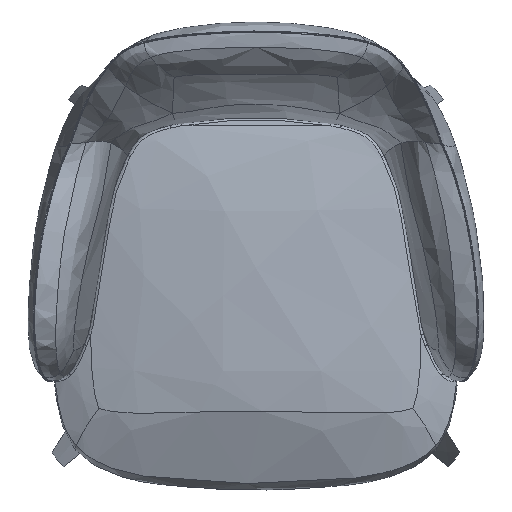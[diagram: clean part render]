
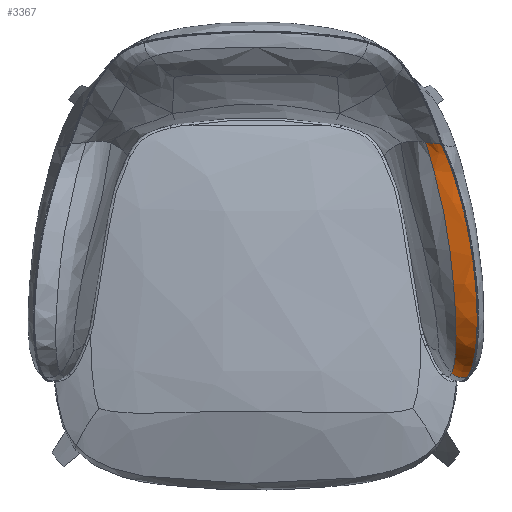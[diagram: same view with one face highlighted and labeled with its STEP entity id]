
A CAD part, top view. The second image highlights one B-rep face of the part: STEP entity #3367.
In plain terms, the highlighted free-form (B-spline) face has degree [3, 3] with [10, 6] control points.
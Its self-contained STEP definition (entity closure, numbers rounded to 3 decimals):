
#167=B_SPLINE_SURFACE_WITH_KNOTS('',3,3,((#9984,#9985,#9986,#9987,#9988,
#9989),(#9990,#9991,#9992,#9993,#9994,#9995),(#9996,#9997,#9998,#9999,#10000,
#10001),(#10002,#10003,#10004,#10005,#10006,#10007),(#10008,#10009,#10010,
#10011,#10012,#10013),(#10014,#10015,#10016,#10017,#10018,#10019),(#10020,
#10021,#10022,#10023,#10024,#10025),(#10026,#10027,#10028,#10029,#10030,
#10031),(#10032,#10033,#10034,#10035,#10036,#10037),(#10038,#10039,#10040,
#10041,#10042,#10043)),.UNSPECIFIED.,.F.,.F.,.F.,(4,1,1,1,1,1,1,4),(4,1,
1,4),(0.,0.063,0.125,0.25,0.5,1.,1.5,2.),(0.,0.5,0.75,1.),
 .UNSPECIFIED.);
#370=FACE_OUTER_BOUND('',#581,.T.);
#581=EDGE_LOOP('',(#2592,#2593,#2594,#2595));
#982=B_SPLINE_CURVE_WITH_KNOTS('',3,(#8619,#8620,#8621,#8622,#8623,#8624,
#8625,#8626,#8627,#8628,#8629),.UNSPECIFIED.,.F.,.F.,(4,1,1,1,2,2,4),(-1.,
-0.875,-0.75,-0.5,-0.25,-0.125,0.),.UNSPECIFIED.);
#991=B_SPLINE_CURVE_WITH_KNOTS('',3,(#9153,#9154,#9155,#9156,#9157,#9158,
#9159,#9160,#9161,#9162),.UNSPECIFIED.,.F.,.F.,(4,1,1,1,1,1,1,4),(-2.,-1.5,
-1.,-0.5,-0.25,-0.125,-0.063,0.),.UNSPECIFIED.);
#1008=B_SPLINE_CURVE_WITH_KNOTS('',3,(#10045,#10046,#10047,#10048,#10049,
#10050,#10051,#10052,#10053,#10054,#10055,#10056),.UNSPECIFIED.,.F.,.F.,
(4,2,2,1,1,1,1,4),(-2.,-1.75,-1.5,-1.,-0.5,-0.25,-0.125,0.),
 .UNSPECIFIED.);
#1009=B_SPLINE_CURVE_WITH_KNOTS('',3,(#10057,#10058,#10059,#10060,#10061,
#10062),.UNSPECIFIED.,.F.,.F.,(4,1,1,4),(0.,0.5,0.75,1.),.UNSPECIFIED.);
#1385=VERTEX_POINT('',#8606);
#1386=VERTEX_POINT('',#8618);
#1392=VERTEX_POINT('',#9152);
#1404=VERTEX_POINT('',#10044);
#1801=EDGE_CURVE('',#1385,#1386,#982,.T.);
#1810=EDGE_CURVE('',#1385,#1392,#991,.T.);
#1827=EDGE_CURVE('',#1386,#1404,#1008,.T.);
#1828=EDGE_CURVE('',#1404,#1392,#1009,.T.);
#2592=ORIENTED_EDGE('',*,*,#1827,.F.);
#2593=ORIENTED_EDGE('',*,*,#1801,.F.);
#2594=ORIENTED_EDGE('',*,*,#1810,.T.);
#2595=ORIENTED_EDGE('',*,*,#1828,.F.);
#3367=ADVANCED_FACE('',(#370),#167,.T.);
#8606=CARTESIAN_POINT('',(278.075,142.523,203.205));
#8618=CARTESIAN_POINT('',(256.688,148.232,202.003));
#8619=CARTESIAN_POINT('Ctrl Pts',(278.075,142.523,203.205));
#8620=CARTESIAN_POINT('Ctrl Pts',(277.174,142.461,203.156));
#8621=CARTESIAN_POINT('Ctrl Pts',(275.373,142.338,203.058));
#8622=CARTESIAN_POINT('Ctrl Pts',(271.775,142.204,202.861));
#8623=CARTESIAN_POINT('Ctrl Pts',(267.29,142.457,202.614));
#8624=CARTESIAN_POINT('Ctrl Pts',(263.73,143.558,202.413));
#8625=CARTESIAN_POINT('Ctrl Pts',(261.076,144.89,202.261));
#8626=CARTESIAN_POINT('Ctrl Pts',(260.194,145.418,202.21));
#8627=CARTESIAN_POINT('Ctrl Pts',(258.436,146.671,202.107));
#8628=CARTESIAN_POINT('Ctrl Pts',(257.56,147.395,202.055));
#8629=CARTESIAN_POINT('Ctrl Pts',(256.688,148.232,202.003));
#9152=CARTESIAN_POINT('',(243.927,448.423,290.504));
#9153=CARTESIAN_POINT('Ctrl Pts',(278.075,142.523,203.205));
#9154=CARTESIAN_POINT('Ctrl Pts',(283.283,148.996,236.562));
#9155=CARTESIAN_POINT('Ctrl Pts',(291.636,177.629,283.331));
#9156=CARTESIAN_POINT('Ctrl Pts',(291.876,260.107,308.684));
#9157=CARTESIAN_POINT('Ctrl Pts',(276.749,355.5,305.012));
#9158=CARTESIAN_POINT('Ctrl Pts',(257.606,416.579,287.564));
#9159=CARTESIAN_POINT('Ctrl Pts',(250.425,434.328,287.76));
#9160=CARTESIAN_POINT('Ctrl Pts',(246.663,442.643,289.146));
#9161=CARTESIAN_POINT('Ctrl Pts',(244.839,446.497,290.051));
#9162=CARTESIAN_POINT('Ctrl Pts',(243.927,448.423,290.504));
#9984=CARTESIAN_POINT('Ctrl Pts',(222.61,450.703,282.114));
#9985=CARTESIAN_POINT('Ctrl Pts',(227.235,450.093,285.062));
#9986=CARTESIAN_POINT('Ctrl Pts',(232.966,449.438,287.74));
#9987=CARTESIAN_POINT('Ctrl Pts',(239.402,448.821,289.568));
#9988=CARTESIAN_POINT('Ctrl Pts',(242.419,448.556,290.192));
#9989=CARTESIAN_POINT('Ctrl Pts',(243.927,448.423,290.504));
#9990=CARTESIAN_POINT('Ctrl Pts',(223.415,448.011,281.817));
#9991=CARTESIAN_POINT('Ctrl Pts',(228.115,447.7,284.683));
#9992=CARTESIAN_POINT('Ctrl Pts',(233.895,447.299,287.302));
#9993=CARTESIAN_POINT('Ctrl Pts',(240.33,446.831,289.113));
#9994=CARTESIAN_POINT('Ctrl Pts',(243.336,446.608,289.738));
#9995=CARTESIAN_POINT('Ctrl Pts',(244.839,446.497,290.051));
#9996=CARTESIAN_POINT('Ctrl Pts',(225.024,442.629,281.223));
#9997=CARTESIAN_POINT('Ctrl Pts',(229.876,442.913,283.927));
#9998=CARTESIAN_POINT('Ctrl Pts',(235.752,443.022,286.426));
#9999=CARTESIAN_POINT('Ctrl Pts',(242.187,442.851,288.202));
#10000=CARTESIAN_POINT('Ctrl Pts',(245.171,442.712,288.831));
#10001=CARTESIAN_POINT('Ctrl Pts',(246.663,442.643,289.146));
#10002=CARTESIAN_POINT('Ctrl Pts',(228.328,431.429,280.401));
#10003=CARTESIAN_POINT('Ctrl Pts',(233.457,432.837,282.805));
#10004=CARTESIAN_POINT('Ctrl Pts',(239.523,433.909,285.086));
#10005=CARTESIAN_POINT('Ctrl Pts',(245.985,434.297,286.803));
#10006=CARTESIAN_POINT('Ctrl Pts',(248.945,434.318,287.441));
#10007=CARTESIAN_POINT('Ctrl Pts',(250.425,434.328,287.76));
#10008=CARTESIAN_POINT('Ctrl Pts',(234.554,409.535,280.879));
#10009=CARTESIAN_POINT('Ctrl Pts',(240.039,412.57,282.898));
#10010=CARTESIAN_POINT('Ctrl Pts',(246.418,415.028,284.909));
#10011=CARTESIAN_POINT('Ctrl Pts',(253.075,416.213,286.572));
#10012=CARTESIAN_POINT('Ctrl Pts',(256.095,416.457,287.233));
#10013=CARTESIAN_POINT('Ctrl Pts',(257.606,416.579,287.564));
#10014=CARTESIAN_POINT('Ctrl Pts',(250.561,347.406,297.168));
#10015=CARTESIAN_POINT('Ctrl Pts',(255.719,350.956,299.534));
#10016=CARTESIAN_POINT('Ctrl Pts',(262.563,353.805,301.891));
#10017=CARTESIAN_POINT('Ctrl Pts',(270.797,355.128,303.844));
#10018=CARTESIAN_POINT('Ctrl Pts',(274.765,355.376,304.623));
#10019=CARTESIAN_POINT('Ctrl Pts',(276.749,355.5,305.012));
#10020=CARTESIAN_POINT('Ctrl Pts',(260.842,256.553,298.349));
#10021=CARTESIAN_POINT('Ctrl Pts',(265.805,257.818,301.96));
#10022=CARTESIAN_POINT('Ctrl Pts',(273.485,258.959,305.253));
#10023=CARTESIAN_POINT('Ctrl Pts',(283.961,259.723,307.517));
#10024=CARTESIAN_POINT('Ctrl Pts',(289.238,259.979,308.295));
#10025=CARTESIAN_POINT('Ctrl Pts',(291.876,260.107,308.684));
#10026=CARTESIAN_POINT('Ctrl Pts',(263.869,181.127,276.674));
#10027=CARTESIAN_POINT('Ctrl Pts',(268.068,178.872,278.997));
#10028=CARTESIAN_POINT('Ctrl Pts',(274.849,177.371,281.115));
#10029=CARTESIAN_POINT('Ctrl Pts',(284.373,177.25,282.576));
#10030=CARTESIAN_POINT('Ctrl Pts',(289.215,177.503,283.079));
#10031=CARTESIAN_POINT('Ctrl Pts',(291.636,177.629,283.331));
#10032=CARTESIAN_POINT('Ctrl Pts',(259.852,154.446,233.435));
#10033=CARTESIAN_POINT('Ctrl Pts',(263.603,151.224,234.437));
#10034=CARTESIAN_POINT('Ctrl Pts',(269.402,148.994,235.399));
#10035=CARTESIAN_POINT('Ctrl Pts',(277.309,148.624,236.141));
#10036=CARTESIAN_POINT('Ctrl Pts',(281.291,148.872,236.422));
#10037=CARTESIAN_POINT('Ctrl Pts',(283.283,148.996,236.562));
#10038=CARTESIAN_POINT('Ctrl Pts',(256.688,148.232,202.003));
#10039=CARTESIAN_POINT('Ctrl Pts',(260.177,144.884,202.212));
#10040=CARTESIAN_POINT('Ctrl Pts',(265.496,142.558,202.515));
#10041=CARTESIAN_POINT('Ctrl Pts',(272.672,142.153,202.911));
#10042=CARTESIAN_POINT('Ctrl Pts',(276.274,142.4,203.107));
#10043=CARTESIAN_POINT('Ctrl Pts',(278.075,142.523,203.205));
#10044=CARTESIAN_POINT('',(222.61,450.703,282.114));
#10045=CARTESIAN_POINT('Ctrl Pts',(256.688,148.232,202.003));
#10046=CARTESIAN_POINT('Ctrl Pts',(258.27,151.339,217.719));
#10047=CARTESIAN_POINT('Ctrl Pts',(259.563,156.228,230.982));
#10048=CARTESIAN_POINT('Ctrl Pts',(261.484,169.262,253.255));
#10049=CARTESIAN_POINT('Ctrl Pts',(262.11,177.407,262.266));
#10050=CARTESIAN_POINT('Ctrl Pts',(262.86,206.269,283.899));
#10051=CARTESIAN_POINT('Ctrl Pts',(260.842,256.553,298.349));
#10052=CARTESIAN_POINT('Ctrl Pts',(250.561,347.406,297.168));
#10053=CARTESIAN_POINT('Ctrl Pts',(234.554,409.535,280.879));
#10054=CARTESIAN_POINT('Ctrl Pts',(227.439,434.556,280.333));
#10055=CARTESIAN_POINT('Ctrl Pts',(224.22,445.32,281.52));
#10056=CARTESIAN_POINT('Ctrl Pts',(222.61,450.703,282.114));
#10057=CARTESIAN_POINT('Ctrl Pts',(222.61,450.703,282.114));
#10058=CARTESIAN_POINT('Ctrl Pts',(227.235,450.093,285.062));
#10059=CARTESIAN_POINT('Ctrl Pts',(232.966,449.438,287.74));
#10060=CARTESIAN_POINT('Ctrl Pts',(239.402,448.821,289.568));
#10061=CARTESIAN_POINT('Ctrl Pts',(242.419,448.556,290.192));
#10062=CARTESIAN_POINT('Ctrl Pts',(243.927,448.423,290.504));
